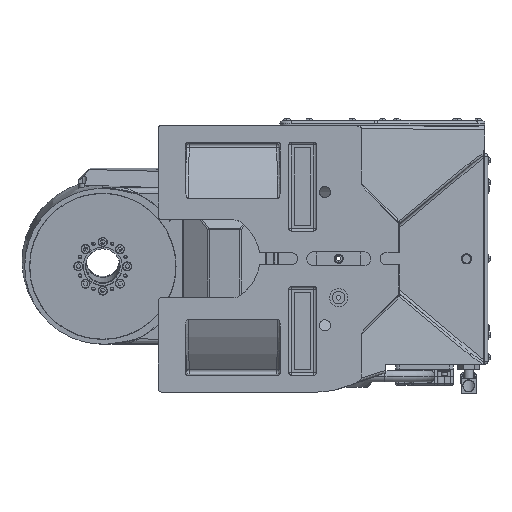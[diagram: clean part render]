
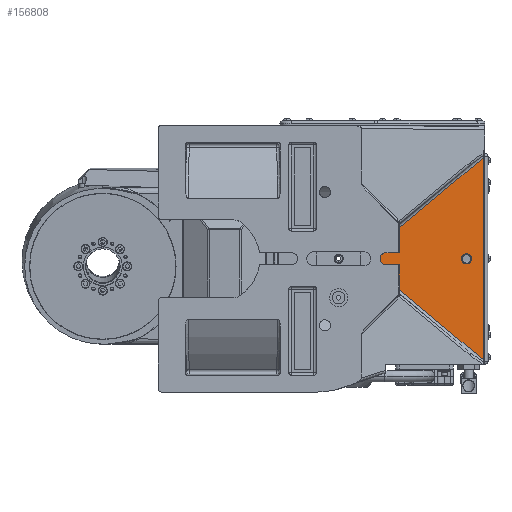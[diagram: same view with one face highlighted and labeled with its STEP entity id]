
A CAD part, front view. The second image highlights one B-rep face of the part: STEP entity #156808.
In plain terms, the highlighted planar face has unit normal (0.035, -0.999, 0).
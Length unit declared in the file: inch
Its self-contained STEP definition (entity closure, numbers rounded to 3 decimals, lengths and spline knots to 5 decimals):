
#1033 = VERTEX_POINT ( 'NONE', #81997 ) ;
#1264 = DIRECTION ( 'NONE',  ( 0., 0., 1. ) ) ;
#3075 = LINE ( 'NONE', #15007, #36146 ) ;
#12155 = CARTESIAN_POINT ( 'NONE',  ( 4.04968, 1.68867, -0.31254 ) ) ;
#12696 = DIRECTION ( 'NONE',  ( 0., 0., 1. ) ) ;
#13348 = EDGE_LOOP ( 'NONE', ( #142285, #144020 ) ) ;
#15007 = CARTESIAN_POINT ( 'NONE',  ( 4.04539, 1.68852, -0.30895 ) ) ;
#17027 = CARTESIAN_POINT ( 'NONE',  ( 8.14654, 1.83174, -0.01055 ) ) ;
#19765 = ORIENTED_EDGE ( 'NONE', *, *, #112147, .T. ) ;
#19913 = EDGE_CURVE ( 'NONE', #142630, #31141, #45659, .T. ) ;
#20366 = FACE_OUTER_BOUND ( 'NONE', #42340, .T. ) ;
#29543 = CARTESIAN_POINT ( 'NONE',  ( 8.46844, 1.84298, 0.37443 ) ) ;
#31141 = VERTEX_POINT ( 'NONE', #75146 ) ;
#31281 = DIRECTION ( 'NONE',  ( -0.766, -0.027, -0.642 ) ) ;
#36146 = VECTOR ( 'NONE', #89322, 39.37008 ) ;
#38901 = ORIENTED_EDGE ( 'NONE', *, *, #107599, .T. ) ;
#42340 = EDGE_LOOP ( 'NONE', ( #38901, #140454, #43598, #19765 ) ) ;
#43598 = ORIENTED_EDGE ( 'NONE', *, *, #74082, .T. ) ;
#45659 = LINE ( 'NONE', #99572, #107765 ) ;
#52279 = CARTESIAN_POINT ( 'NONE',  ( 4.04968, 1.68867, -0.44805 ) ) ;
#57863 = CARTESIAN_POINT ( 'NONE',  ( 9.11654, 1.86561, -4.55607 ) ) ;
#58297 = AXIS2_PLACEMENT_3D ( 'NONE', #134204, #59704, #146668 ) ;
#59704 = DIRECTION ( 'NONE',  ( 0.035, -0.999, 0. ) ) ;
#62080 = VECTOR ( 'NONE', #31281, 39.37008 ) ;
#64718 = DIRECTION ( 'NONE',  ( 0., 0., -1. ) ) ;
#71243 = VERTEX_POINT ( 'NONE', #78710 ) ;
#74082 = EDGE_CURVE ( 'NONE', #31141, #119839, #161283, .T. ) ;
#75146 = CARTESIAN_POINT ( 'NONE',  ( 9.11654, 1.86561, 4.53498 ) ) ;
#78710 = CARTESIAN_POINT ( 'NONE',  ( 8.58243, 1.84696, 0.06787 ) ) ;
#79630 = VECTOR ( 'NONE', #1264, 39.37008 ) ;
#81997 = CARTESIAN_POINT ( 'NONE',  ( 8.58243, 1.84696, -0.08897 ) ) ;
#87849 =( BOUNDED_CURVE ( )  B_SPLINE_CURVE ( 3, ( #128418, #140857, #91330, #17027, #103842, #29543, #116398 ),
 .UNSPECIFIED., .F., .F. ) 
 B_SPLINE_CURVE_WITH_KNOTS ( ( 4, 3, 4 ),
 ( 3.49761, 6.28319, 9.06877 ),
 .UNSPECIFIED. ) 
 CURVE ( )  GEOMETRIC_REPRESENTATION_ITEM ( )  RATIONAL_B_SPLINE_CURVE ( ( 1., 0.451, 0.451, 1., 0.451, 0.451, 1. ) ) 
 REPRESENTATION_ITEM ( '' )  );
#89322 = DIRECTION ( 'NONE',  ( 0.766, 0.027, -0.642 ) ) ;
#91330 = CARTESIAN_POINT ( 'NONE',  ( 8.14654, 1.83174, -0.33761 ) ) ;
#99006 = CARTESIAN_POINT ( 'NONE',  ( 8.58243, 1.84696, -0.44805 ) ) ;
#99572 = CARTESIAN_POINT ( 'NONE',  ( 9.11654, 1.86561, -0.44805 ) ) ;
#103842 = CARTESIAN_POINT ( 'NONE',  ( 8.14654, 1.83174, 0.31652 ) ) ;
#105574 = CARTESIAN_POINT ( 'NONE',  ( 3.61499, 1.67349, -0.07261 ) ) ;
#107599 = EDGE_CURVE ( 'NONE', #159930, #142630, #3075, .T. ) ;
#107765 = VECTOR ( 'NONE', #12696, 39.37008 ) ;
#108176 = VECTOR ( 'NONE', #64718, 39.37008 ) ;
#112075 = LINE ( 'NONE', #52279, #108176 ) ;
#112147 = EDGE_CURVE ( 'NONE', #119839, #159930, #112075, .T. ) ;
#112767 = LINE ( 'NONE', #99006, #79630 ) ;
#114957 = EDGE_CURVE ( 'NONE', #1033, #71243, #87849, .T. ) ;
#116398 = CARTESIAN_POINT ( 'NONE',  ( 8.58243, 1.84696, 0.06787 ) ) ;
#119437 = FACE_BOUND ( 'NONE', #13348, .T. ) ;
#119839 = VERTEX_POINT ( 'NONE', #121298 ) ;
#121298 = CARTESIAN_POINT ( 'NONE',  ( 4.04968, 1.68867, 0.29144 ) ) ;
#128418 = CARTESIAN_POINT ( 'NONE',  ( 8.58243, 1.84696, -0.08897 ) ) ;
#134204 = CARTESIAN_POINT ( 'NONE',  ( 3.92904, 1.68446, -0.44805 ) ) ;
#140454 = ORIENTED_EDGE ( 'NONE', *, *, #19913, .T. ) ;
#140857 = CARTESIAN_POINT ( 'NONE',  ( 8.46844, 1.84298, -0.39552 ) ) ;
#142285 = ORIENTED_EDGE ( 'NONE', *, *, #159995, .F. ) ;
#142630 = VERTEX_POINT ( 'NONE', #57863 ) ;
#144020 = ORIENTED_EDGE ( 'NONE', *, *, #114957, .T. ) ;
#146668 = DIRECTION ( 'NONE',  ( 0.999, 0.035, 0. ) ) ;
#156808 = ADVANCED_FACE ( 'NONE', ( #119437, #20366 ), #158651, .T. ) ;
#158651 = PLANE ( 'NONE',  #58297 ) ;
#159930 = VERTEX_POINT ( 'NONE', #12155 ) ;
#159995 = EDGE_CURVE ( 'NONE', #1033, #71243, #112767, .T. ) ;
#161283 = LINE ( 'NONE', #105574, #62080 ) ;
